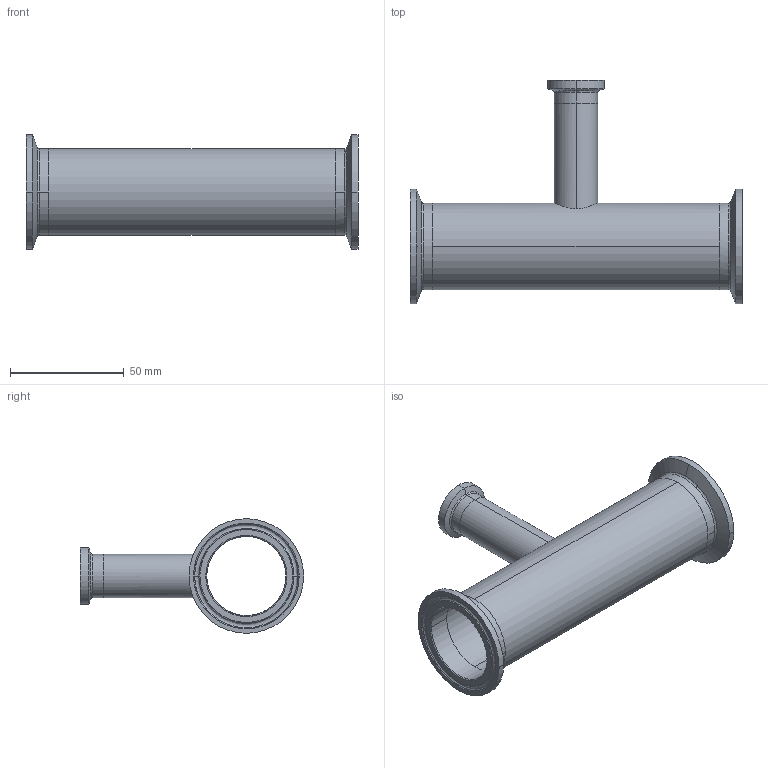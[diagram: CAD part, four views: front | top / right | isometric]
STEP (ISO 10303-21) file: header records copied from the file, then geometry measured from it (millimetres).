
FILE_DESCRIPTION (( 'STEP AP214' ), '1' );
FILE_NAME ('TEG7R6L1.5x.75-...STEP', '2016-05-24T06:08:44', ( 'eran' ), ( '' ), 'SwSTEP 2.0', 'SolidWorks 2016', '' );
FILE_SCHEMA (( 'AUTOMOTIVE_DESIGN' ));
Length unit declared in the file: millimetre
Products named in the file (1): TEG7R6L1.5x.75-..
Bounding box: 146 x 98.2 x 50.39 mm (x, y, z)
Volume: 39138.3 mm3; surface area: 44251.2 mm2
Topology: 4 solids, 4 shells, 84 faces, 198 edges, 126 vertices
Faces by surface type: cylinder 28, bspline 28, cone 16, plane 12
Entity records: 4071 total; most frequent: CARTESIAN_POINT 2085, DIRECTION 426, ORIENTED_EDGE 396, EDGE_CURVE 198, AXIS2_PLACEMENT_3D 191, CIRCLE 134, VERTEX_POINT 126, EDGE_LOOP 98
